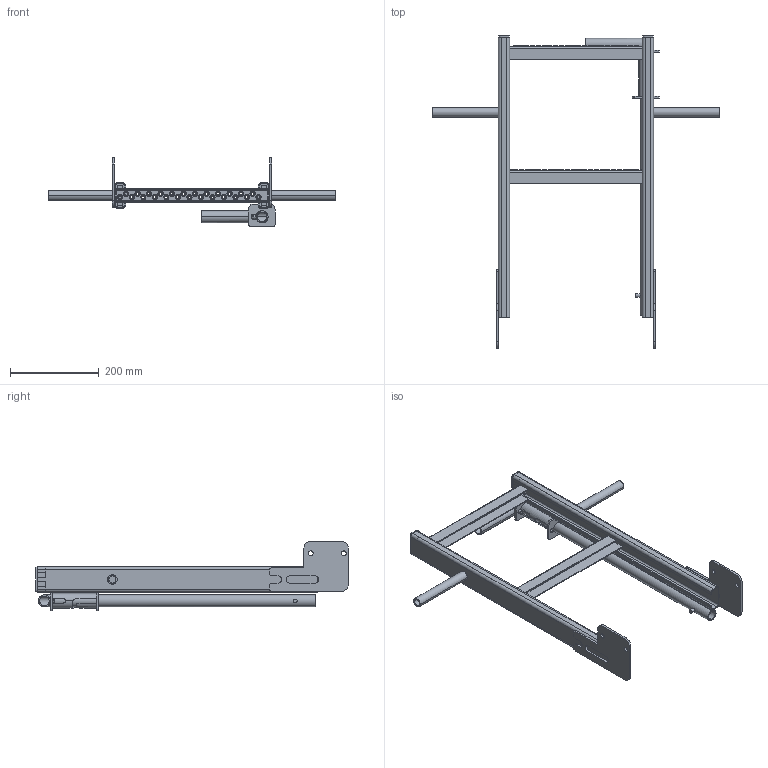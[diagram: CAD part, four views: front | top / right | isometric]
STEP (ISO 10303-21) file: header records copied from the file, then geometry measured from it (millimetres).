
FILE_DESCRIPTION((''),'2;1');
FILE_NAME('105412-600','2018-11-27T',('stat'),('HUBER SE'),'PRO/ENGINEER BY PARAMETRIC TECHNOLOGY CORPORATION, 2017170','PRO/ENGINEER BY PARAMETRIC TECHNOLOGY CORPORATION, 2017170','');
FILE_SCHEMA(('AUTOMOTIVE_DESIGN { 1 0 10303 214 1 1 1 1 }'));
Length unit declared in the file: millimetre
Products named in the file (1): 105412-600
Bounding box: 650 x 705.5 x 156.25 mm (x, y, z)
Volume: 861213.5 mm3; surface area: 642016.6 mm2
Topology: 7 solids, 7 shells, 774 faces, 1871 edges, 1158 vertices
Faces by surface type: plane 273, cone 188, torus 188, cylinder 125
Entity records: 25208 total; most frequent: CARTESIAN_POINT 4641, DIRECTION 4414, ORIENTED_EDGE 3742, EDGE_CURVE 1871, AXIS2_PLACEMENT_3D 1791, VERTEX_POINT 1158, CIRCLE 1012, EDGE_LOOP 937
